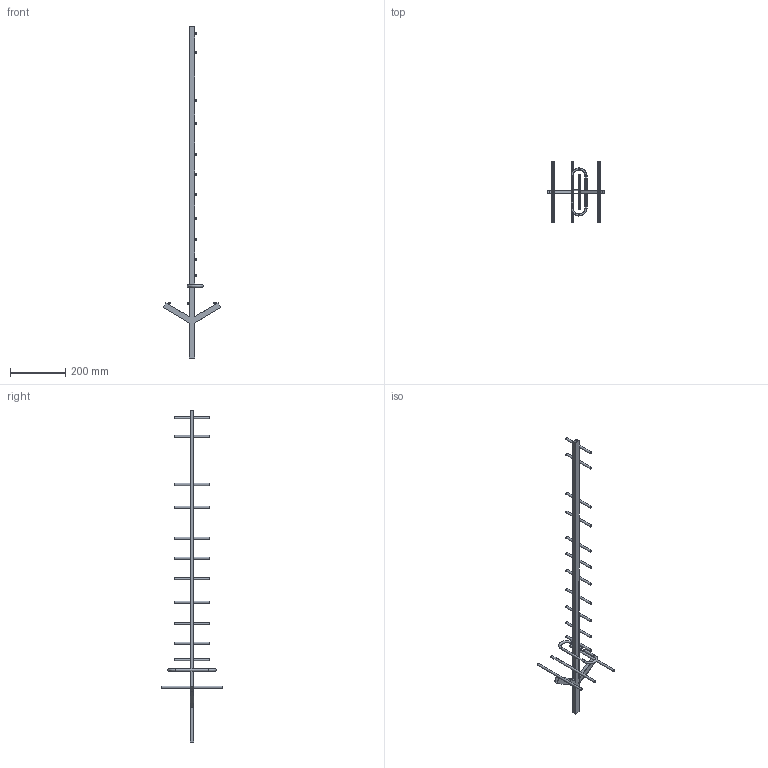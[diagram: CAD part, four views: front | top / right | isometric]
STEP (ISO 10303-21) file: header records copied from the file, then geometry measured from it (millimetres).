
FILE_DESCRIPTION((''),'2;1');
FILE_NAME('D:\Old Computer\Евгений\Autodesk\Projects\Antenna\L030.15\L030.15.stp','2014-06-15T09:32:45',('Evgeny'),(''),'Autodesk Inventor 2011','Autodesk Inventor 2011','');
FILE_SCHEMA(('AUTOMOTIVE_DESIGN { 1 0 10303 214 1 1 1 1 }'));
Length unit declared in the file: millimetre
Products named in the file (1): L030
Bounding box: 208.73 x 223 x 1200 mm (x, y, z)
Volume: 85868.3 mm3; surface area: 281104.2 mm2
Topology: 3 solids, 3 shells, 127 faces, 300 edges, 182 vertices
Faces by surface type: plane 89, cylinder 34, torus 4
Full cylindrical faces by diameter (mm): 6 x17, 8 x16
Entity records: 3424 total; most frequent: DIRECTION 580, CARTESIAN_POINT 562, ORIENTED_EDGE 504, EDGE_CURVE 252, EDGE_LOOP 214, AXIS2_PLACEMENT_3D 200, VERTEX_POINT 182, VECTOR 180
